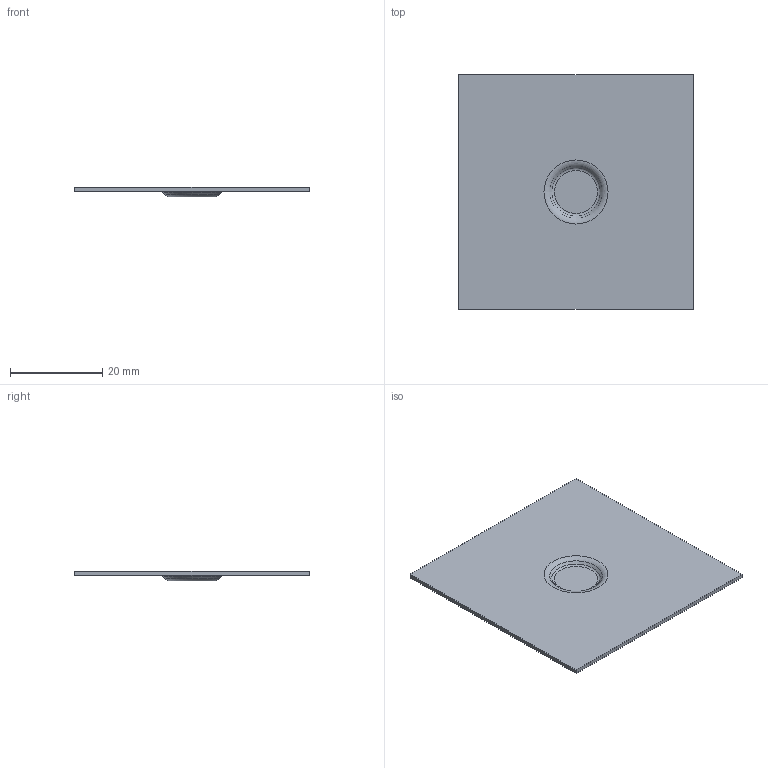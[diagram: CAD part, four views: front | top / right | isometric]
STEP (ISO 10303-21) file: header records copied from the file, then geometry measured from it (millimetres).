
FILE_DESCRIPTION((''),'1');
FILE_NAME('C:/Users/robertnolte/Desktop/WT#206-4343.stp','2012-03-29T19:11:01',(''),(''),'Spatial Interop R21 SP3','Kubotek KeyCreator 2011 V10.5.0 (24766)',' ');
FILE_SCHEMA(('CONFIG_CONTROL_DESIGN'));
Length unit declared in the file: inch
Products named in the file (1): 1
Bounding box: 50.8 x 50.8 x 2.13 mm (x, y, z)
Volume: 2373 mm3; surface area: 5376.1 mm2
Topology: 1 solids, 1 shells, 14 faces, 28 edges, 18 vertices
Faces by surface type: plane 8, torus 4, cone 2
Entity records: 360 total; most frequent: DIRECTION 58, CARTESIAN_POINT 51, ORIENTED_EDGE 40, AXIS2_PLACEMENT_3D 23, EDGE_LOOP 22, EDGE_CURVE 20, VERTEX_POINT 16, ADVANCED_FACE 14
